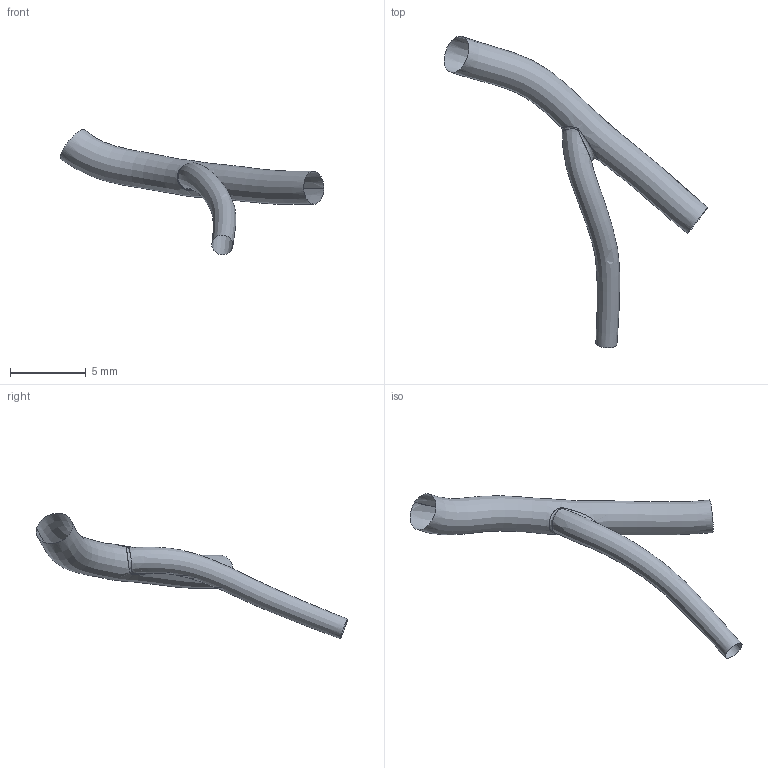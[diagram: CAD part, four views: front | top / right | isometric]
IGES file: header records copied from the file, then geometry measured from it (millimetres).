
Global section: file name: C:\Documents and Settings\Administrator\Desktop\FDA-Pig\Domestic LCA\Pig_000011\diag.es.igs; native system: Rhinoceros ( May 19 2006 ); preprocessor: Trout Lake IGES 012 May 19 2006; date: 111205.183925; units: centimetre
Bounding box: 17.37 x 20.53 x 8.27 mm (x, y, z)
Surface area: 214.7 mm2 (no closed solid volume)
Topology: 0 solids, 0 shells, 3 faces, 59 edges, 56 vertices
Faces by surface type: bspline 3
